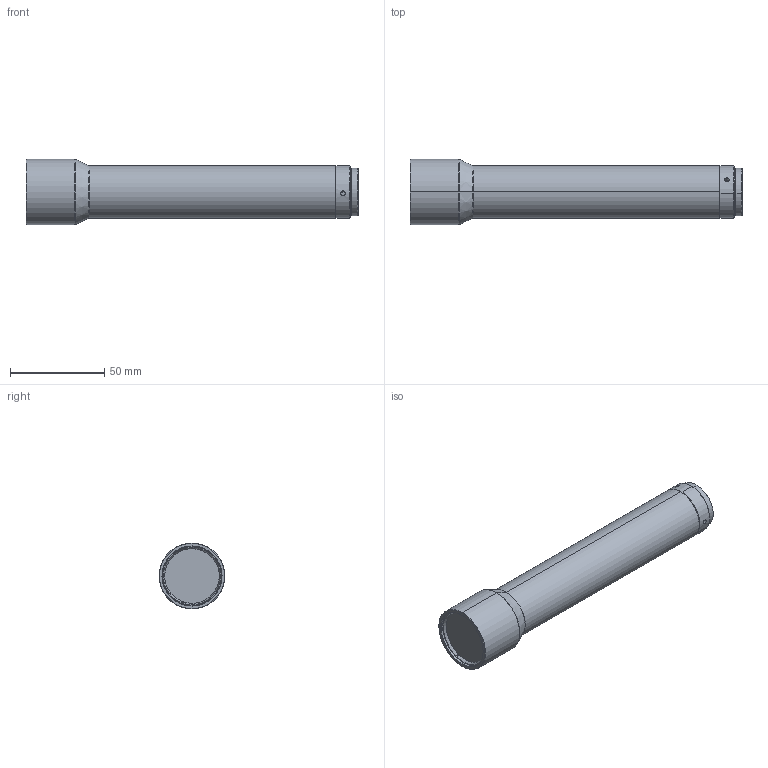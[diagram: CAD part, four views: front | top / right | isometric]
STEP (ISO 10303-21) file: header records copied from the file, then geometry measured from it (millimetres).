
FILE_DESCRIPTION (( 'STEP AP214' ), '1' );
FILE_NAME ('WWH20-210AT-110.STEP', '2024-07-04T02:43:40', ( 'jg' ), ( '' ), 'SwSTEP 2.0', 'SolidWorks 2017', '' );
FILE_SCHEMA (( 'AUTOMOTIVE_DESIGN' ));
Length unit declared in the file: millimetre
Products named in the file (1): WWH20-210AT-110
Bounding box: 176.41 x 35 x 35 mm (x, y, z)
Volume: 115133.9 mm3; surface area: 18773.1 mm2
Topology: 1 solids, 3 shells, 74 faces, 159 edges, 100 vertices
Faces by surface type: cylinder 34, plane 20, cone 16, torus 4
Entity records: 3034 total; most frequent: CARTESIAN_POINT 592, DIRECTION 369, ORIENTED_EDGE 318, EDGE_CURVE 159, AXIS2_PLACEMENT_3D 155, VERTEX_POINT 100, EDGE_LOOP 87, CIRCLE 80
